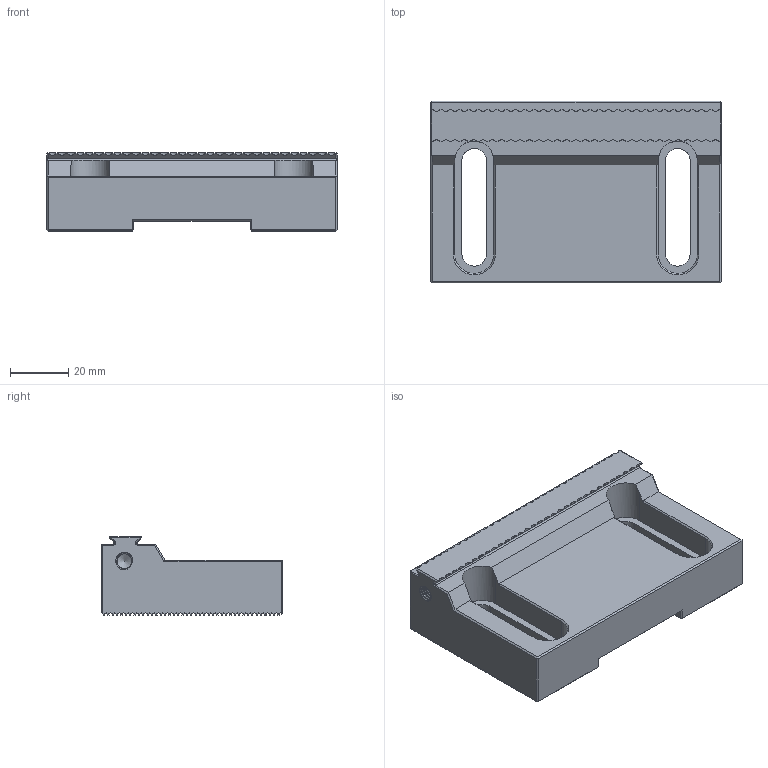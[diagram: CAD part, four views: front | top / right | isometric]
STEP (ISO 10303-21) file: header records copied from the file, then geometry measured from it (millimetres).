
FILE_DESCRIPTION(('HOOPS Exchange Step'),'2;1');
FILE_NAME('C:\Users\27939\AppData\Local\Packages\Shapr3D.Shapr3D_j403pzjkqtqbj\TempState\export\temp_export','2024-02-20T09:55:27+08:00',('OVER'),('Shapr3D Limited'),'HOOPS Exchange 2023.2','Shapr3D','Authorized');
FILE_SCHEMA( ('AUTOMOTIVE_DESIGN { 1 0 10303 214 1 1 1 1 }') );
Length unit declared in the file: millimetre
Products named in the file (3): 05-0159; KSP-100; root
Assembly tree (2 placements, depth 3):
  root
    KSP-100
      05-0159
Bounding box: 100 x 62.5 x 27 mm (x, y, z)
Volume: 104233.9 mm3; surface area: 25421.1 mm2
Topology: 1 solids, 1 shells, 964 faces, 2866 edges, 1902 vertices
Faces by surface type: plane 789, cylinder 137, cone 32, bspline 6
Full cylindrical faces by diameter (mm): 5.1 x14, 6 x12
Entity records: 76822 total; most frequent: CARTESIAN_POINT 50943, ORIENTED_EDGE 5728, DIRECTION 4870, EDGE_CURVE 2864, VECTOR 2412, LINE 2412, VERTEX_POINT 1902, AXIS2_PLACEMENT_3D 1229
